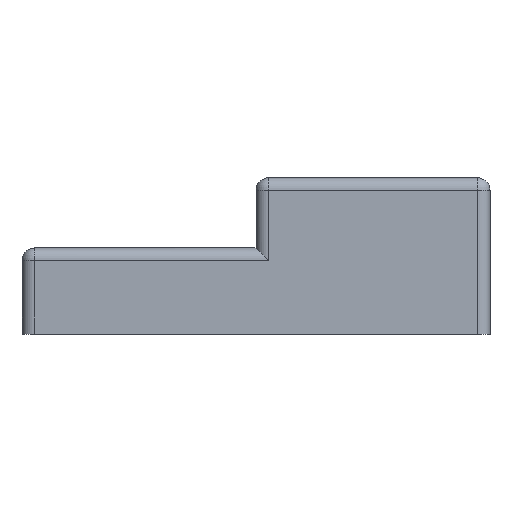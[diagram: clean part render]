
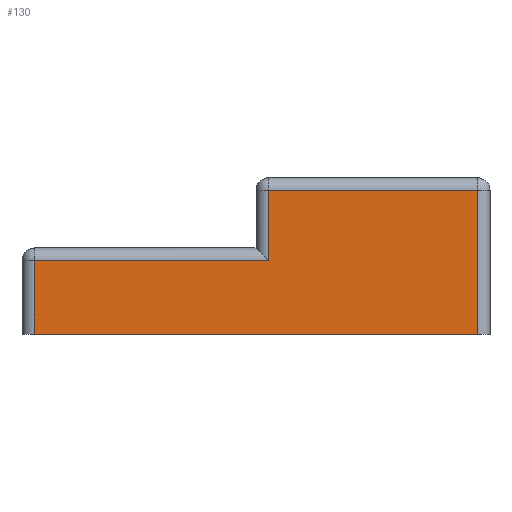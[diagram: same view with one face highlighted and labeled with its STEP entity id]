
A CAD part, front view. The second image highlights one B-rep face of the part: STEP entity #130.
In plain terms, the highlighted planar face has unit normal (0, -1, 0).
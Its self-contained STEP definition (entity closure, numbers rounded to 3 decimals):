
#82=FACE_OUTER_BOUND('',#274,.T.);
#130=ADVANCED_FACE('',(#82),#184,.T.);
#184=PLANE('',#924);
#274=EDGE_LOOP('',(#363,#364,#365,#366,#367,#368));
#363=ORIENTED_EDGE('',*,*,#672,.T.);
#364=ORIENTED_EDGE('',*,*,#673,.T.);
#365=ORIENTED_EDGE('',*,*,#667,.T.);
#366=ORIENTED_EDGE('',*,*,#674,.T.);
#367=ORIENTED_EDGE('',*,*,#675,.T.);
#368=ORIENTED_EDGE('',*,*,#676,.T.);
#593=VERTEX_POINT('',#1338);
#594=VERTEX_POINT('',#1339);
#595=VERTEX_POINT('',#1346);
#596=VERTEX_POINT('',#1347);
#597=VERTEX_POINT('',#1350);
#598=VERTEX_POINT('',#1352);
#667=EDGE_CURVE('',#593,#594,#784,.T.);
#672=EDGE_CURVE('',#595,#596,#785,.T.);
#673=EDGE_CURVE('',#596,#593,#786,.T.);
#674=EDGE_CURVE('',#594,#597,#787,.T.);
#675=EDGE_CURVE('',#597,#598,#788,.T.);
#676=EDGE_CURVE('',#598,#595,#789,.T.);
#784=LINE('',#1337,#859);
#785=LINE('',#1345,#860);
#786=LINE('',#1348,#861);
#787=LINE('',#1349,#862);
#788=LINE('',#1351,#863);
#789=LINE('',#1353,#864);
#859=VECTOR('',#1047,1.);
#860=VECTOR('',#1058,1.);
#861=VECTOR('',#1059,1.);
#862=VECTOR('',#1060,1.);
#863=VECTOR('',#1061,1.);
#864=VECTOR('',#1062,1.);
#924=AXIS2_PLACEMENT_3D('',#1354,#1063,#1064);
#1047=DIRECTION('',(1.,0.,0.));
#1058=DIRECTION('',(-1.,0.,0.));
#1059=DIRECTION('',(0.,0.,-1.));
#1060=DIRECTION('',(0.,0.,1.));
#1061=DIRECTION('',(-1.,0.,0.));
#1062=DIRECTION('',(0.,0.,-1.));
#1063=DIRECTION('',(0.,-1.,0.));
#1064=DIRECTION('',(0.,0.,-1.));
#1337=CARTESIAN_POINT('',(-9.5,-14.25,0.));
#1338=CARTESIAN_POINT('',(-18.5,-14.25,0.));
#1339=CARTESIAN_POINT('',(-0.5,-14.25,0.));
#1345=CARTESIAN_POINT('',(-19.,-14.25,3.));
#1346=CARTESIAN_POINT('',(-9.,-14.25,3.));
#1347=CARTESIAN_POINT('',(-18.5,-14.25,3.));
#1348=CARTESIAN_POINT('',(-18.5,-14.25,0.));
#1349=CARTESIAN_POINT('',(-0.5,-14.25,0.));
#1350=CARTESIAN_POINT('',(-0.5,-14.25,5.85));
#1351=CARTESIAN_POINT('',(-9.5,-14.25,5.85));
#1352=CARTESIAN_POINT('',(-9.,-14.25,5.85));
#1353=CARTESIAN_POINT('',(-9.,-14.25,3.5));
#1354=CARTESIAN_POINT('',(-9.5,-14.25,0.));
